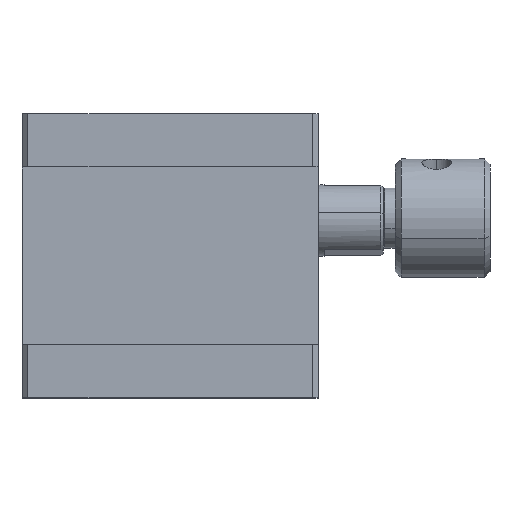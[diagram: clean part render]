
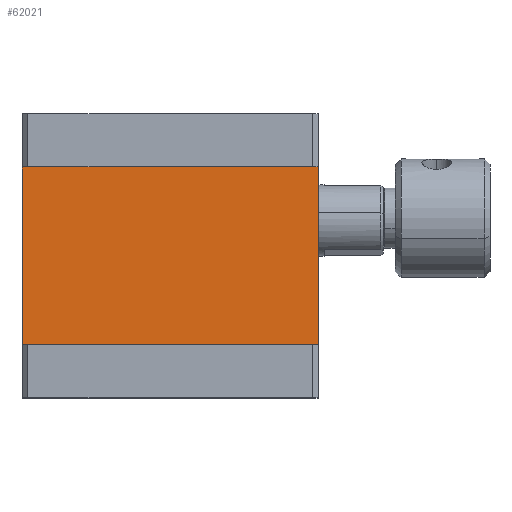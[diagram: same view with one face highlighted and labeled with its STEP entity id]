
A CAD part, top view. The second image highlights one B-rep face of the part: STEP entity #62021.
In plain terms, the highlighted planar face has unit normal (0, 0, 1).
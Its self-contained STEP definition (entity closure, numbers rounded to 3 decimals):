
#705 = ORIENTED_EDGE ( 'NONE', *, *, #45394, .T. ) ;
#1091 = VECTOR ( 'NONE', #6341, 1000. ) ;
#1945 = VERTEX_POINT ( 'NONE', #12764 ) ;
#2807 = EDGE_CURVE ( 'NONE', #1945, #38420, #42354, .T. ) ;
#3410 = ORIENTED_EDGE ( 'NONE', *, *, #3474, .F. ) ;
#3474 = EDGE_CURVE ( 'NONE', #29240, #38420, #15298, .T. ) ;
#6271 = CARTESIAN_POINT ( 'NONE',  ( -12.5, 19.5, 7. ) ) ;
#6341 = DIRECTION ( 'NONE',  ( 1., 0., 0. ) ) ;
#7512 = VECTOR ( 'NONE', #29303, 1000. ) ;
#12764 = CARTESIAN_POINT ( 'NONE',  ( -12.5, 4.5, 7. ) ) ;
#14107 = PLANE ( 'NONE',  #54064 ) ;
#15298 = LINE ( 'NONE', #55984, #7512 ) ;
#17010 = CARTESIAN_POINT ( 'NONE',  ( -12.5, 4.5, 7. ) ) ;
#19487 = EDGE_CURVE ( 'NONE', #28890, #29240, #51973, .T. ) ;
#25153 = VECTOR ( 'NONE', #34803, 1000. ) ;
#25818 = CARTESIAN_POINT ( 'NONE',  ( -12.5, 19.5, 7. ) ) ;
#25957 = VECTOR ( 'NONE', #45648, 1000. ) ;
#28890 = VERTEX_POINT ( 'NONE', #43420 ) ;
#29240 = VERTEX_POINT ( 'NONE', #55100 ) ;
#29303 = DIRECTION ( 'NONE',  ( 0., -1., 0. ) ) ;
#33412 = EDGE_LOOP ( 'NONE', ( #52232, #3410, #60629, #705 ) ) ;
#34803 = DIRECTION ( 'NONE',  ( 0., -1., 0. ) ) ;
#38420 = VERTEX_POINT ( 'NONE', #65859 ) ;
#42354 = LINE ( 'NONE', #17010, #1091 ) ;
#43420 = CARTESIAN_POINT ( 'NONE',  ( -12.5, 19.5, 7. ) ) ;
#43463 = DIRECTION ( 'NONE',  ( 0., 0., -1. ) ) ;
#44460 = DIRECTION ( 'NONE',  ( 1., 0., 0. ) ) ;
#45394 = EDGE_CURVE ( 'NONE', #28890, #1945, #50171, .T. ) ;
#45648 = DIRECTION ( 'NONE',  ( 1., 0., 0. ) ) ;
#50171 = LINE ( 'NONE', #25818, #25153 ) ;
#51973 = LINE ( 'NONE', #6271, #25957 ) ;
#52232 = ORIENTED_EDGE ( 'NONE', *, *, #2807, .T. ) ;
#54064 = AXIS2_PLACEMENT_3D ( 'NONE', #59476, #43463, #44460 ) ;
#55100 = CARTESIAN_POINT ( 'NONE',  ( 12.5, 19.5, 7. ) ) ;
#55984 = CARTESIAN_POINT ( 'NONE',  ( 12.5, 19.5, 7. ) ) ;
#59476 = CARTESIAN_POINT ( 'NONE',  ( -12.5, 19.5, 7. ) ) ;
#60629 = ORIENTED_EDGE ( 'NONE', *, *, #19487, .F. ) ;
#62021 = ADVANCED_FACE ( 'NONE', ( #64485 ), #14107, .F. ) ;
#64485 = FACE_OUTER_BOUND ( 'NONE', #33412, .T. ) ;
#65859 = CARTESIAN_POINT ( 'NONE',  ( 12.5, 4.5, 7. ) ) ;
